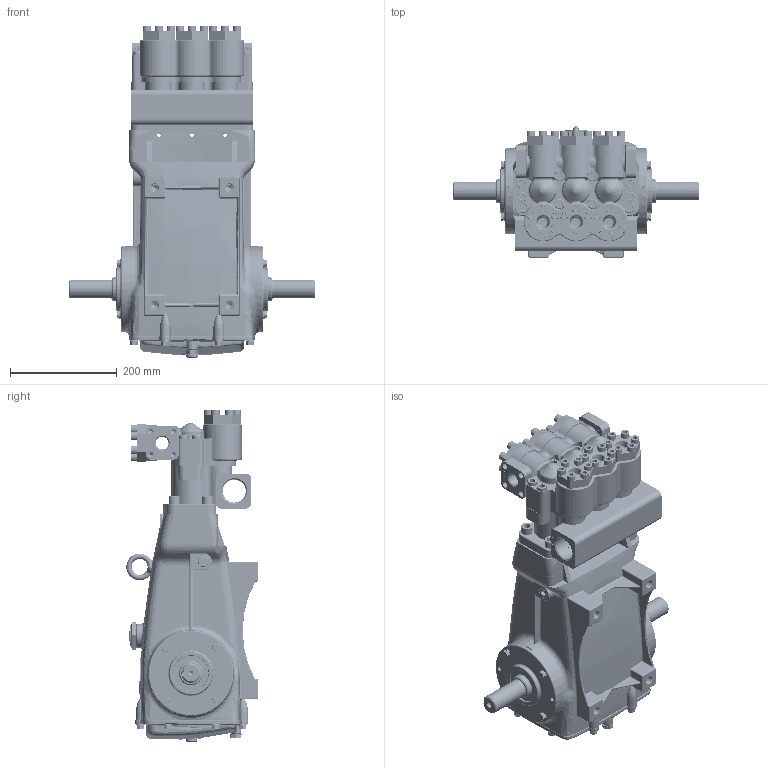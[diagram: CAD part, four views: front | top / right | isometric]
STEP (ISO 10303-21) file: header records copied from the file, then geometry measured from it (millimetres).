
FILE_DESCRIPTION (( 'STEP AP214' ), '1' );
FILE_NAME ('3501.STEP', '2012-12-14T07:12:24', ( '' ), ( '' ), 'SwSTEP 2.0', 'SolidWorks 2012', '' );
FILE_SCHEMA (( 'AUTOMOTIVE_DESIGN' ));
Length unit declared in the file: millimetre
Products named in the file (1): 3501
Bounding box: 460 x 246.1 x 622 mm (x, y, z)
Volume: 8976097.7 mm3; surface area: 1825841.6 mm2
Topology: 3 solids, 77 shells, 7037 faces, 16947 edges, 10405 vertices
Faces by surface type: plane 2829, cylinder 2013, bspline 878, cone 676, torus 602, sphere 39
Entity records: 310294 total; most frequent: CARTESIAN_POINT 88705, ORIENTED_EDGE 33396, DIRECTION 32446, EDGE_CURVE 16698, AXIS2_PLACEMENT_3D 12262, VERTEX_POINT 10394, VECTOR 7922, LINE 7922
